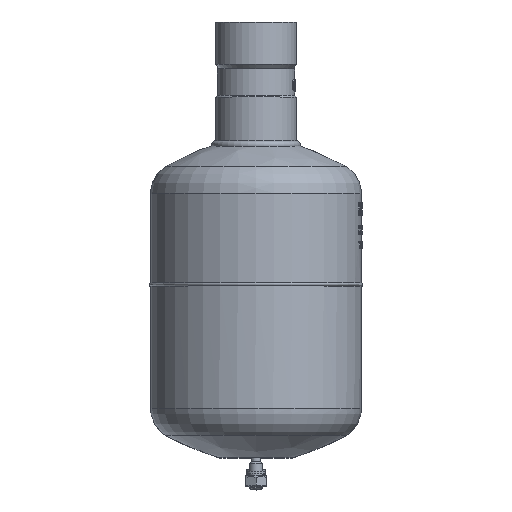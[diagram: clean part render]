
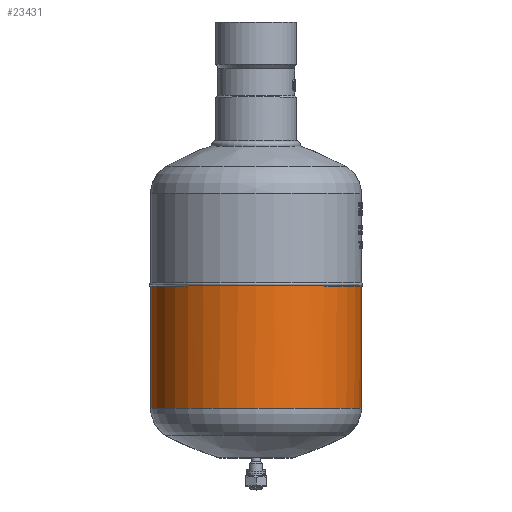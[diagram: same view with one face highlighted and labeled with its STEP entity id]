
A CAD part, top view. The second image highlights one B-rep face of the part: STEP entity #23431.
In plain terms, the highlighted cylindrical face has radius 99 mm (diameter 198 mm), a full revolution.
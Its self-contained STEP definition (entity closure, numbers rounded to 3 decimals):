
#660=FACE_BOUND('',#4953,.T.);
#1578=B_SPLINE_CURVE_WITH_KNOTS('',3,(#50453,#50454,#50455,#50456,#50457,
#50458,#50459,#50460,#50461,#50462,#50463,#50464,#50465,#50466,#50467,#50468,
#50469,#50470),.UNSPECIFIED.,.F.,.F.,(4,2,2,2,2,2,2,2,4),(6.898,
7.242,7.587,7.932,8.277,8.622,
8.967,9.312,9.371),.UNSPECIFIED.);
#1579=B_SPLINE_CURVE_WITH_KNOTS('',3,(#50472,#50473,#50474,#50475,#50476,
#50477,#50478,#50479,#50480,#50481,#50482,#50483,#50484,#50485,#50486,#50487,
#50488,#50489,#50490),.UNSPECIFIED.,.F.,.F.,(4,2,2,2,3,2,2,2,4),(4.424,
4.483,4.828,5.173,5.518,5.863,
6.208,6.553,6.898),.UNSPECIFIED.);
#1715=CYLINDRICAL_SURFACE('',#25199,99.);
#2159=CIRCLE('',#25122,99.);
#2190=CIRCLE('',#25197,99.);
#3490=FACE_OUTER_BOUND('',#4952,.T.);
#4952=EDGE_LOOP('',(#21363,#21364,#21365));
#4953=EDGE_LOOP('',(#21366));
#10949=VERTEX_POINT('',#50088);
#10997=VERTEX_POINT('',#50451);
#10998=VERTEX_POINT('',#50452);
#10999=VERTEX_POINT('',#50471);
#14405=EDGE_CURVE('',#10949,#10949,#2159,.T.);
#14461=EDGE_CURVE('',#10997,#10998,#1578,.T.);
#14462=EDGE_CURVE('',#10999,#10997,#1579,.T.);
#14465=EDGE_CURVE('',#10999,#10998,#2190,.T.);
#21363=ORIENTED_EDGE('',*,*,#14461,.T.);
#21364=ORIENTED_EDGE('',*,*,#14465,.F.);
#21365=ORIENTED_EDGE('',*,*,#14462,.T.);
#21366=ORIENTED_EDGE('',*,*,#14405,.T.);
#23431=ADVANCED_FACE('',(#3490,#660),#1715,.T.);
#25122=AXIS2_PLACEMENT_3D('',#50089,#30184,#30185);
#25197=AXIS2_PLACEMENT_3D('',#50520,#30340,#30341);
#25199=AXIS2_PLACEMENT_3D('',#50523,#30344,#30345);
#30184=DIRECTION('center_axis',(0.,-1.,0.));
#30185=DIRECTION('ref_axis',(-1.,0.,0.));
#30340=DIRECTION('center_axis',(0.,-1.,0.));
#30341=DIRECTION('ref_axis',(-1.,0.,0.));
#30344=DIRECTION('center_axis',(0.,-1.,0.));
#30345=DIRECTION('ref_axis',(-1.,0.,0.));
#50088=CARTESIAN_POINT('',(-99.,-100.575,256.456));
#50089=CARTESIAN_POINT('Origin',(0.,-100.575,
256.456));
#50451=CARTESIAN_POINT('',(0.,-197.425,157.456));
#50452=CARTESIAN_POINT('',(-2.915,-215.249,157.499));
#50453=CARTESIAN_POINT('Ctrl Pts',(0.,-197.425,
157.456));
#50454=CARTESIAN_POINT('Ctrl Pts',(-1.15,-197.425,
157.456));
#50455=CARTESIAN_POINT('Ctrl Pts',(-2.375,-197.655,
157.479));
#50456=CARTESIAN_POINT('Ctrl Pts',(-4.63,-198.589,
157.558));
#50457=CARTESIAN_POINT('Ctrl Pts',(-5.658,-199.293,
157.615));
#50458=CARTESIAN_POINT('Ctrl Pts',(-7.282,-200.917,
157.721));
#50459=CARTESIAN_POINT('Ctrl Pts',(-7.986,-201.946,
157.778));
#50460=CARTESIAN_POINT('Ctrl Pts',(-8.92,-204.2,
157.858));
#50461=CARTESIAN_POINT('Ctrl Pts',(-9.15,-205.426,
157.88));
#50462=CARTESIAN_POINT('Ctrl Pts',(-9.15,-207.725,
157.88));
#50463=CARTESIAN_POINT('Ctrl Pts',(-8.92,-208.951,
157.858));
#50464=CARTESIAN_POINT('Ctrl Pts',(-7.986,-211.205,
157.778));
#50465=CARTESIAN_POINT('Ctrl Pts',(-7.282,-212.233,
157.721));
#50466=CARTESIAN_POINT('Ctrl Pts',(-5.658,-213.857,
157.615));
#50467=CARTESIAN_POINT('Ctrl Pts',(-4.63,-214.561,
157.558));
#50468=CARTESIAN_POINT('Ctrl Pts',(-3.309,-215.109,
157.512));
#50469=CARTESIAN_POINT('Ctrl Pts',(-3.113,-215.182,
157.505));
#50470=CARTESIAN_POINT('Ctrl Pts',(-2.915,-215.249,
157.499));
#50471=CARTESIAN_POINT('',(2.915,-215.249,157.499));
#50472=CARTESIAN_POINT('Ctrl Pts',(2.915,-215.249,157.499));
#50473=CARTESIAN_POINT('Ctrl Pts',(3.113,-215.182,157.505));
#50474=CARTESIAN_POINT('Ctrl Pts',(3.309,-215.109,157.512));
#50475=CARTESIAN_POINT('Ctrl Pts',(4.63,-214.561,157.558));
#50476=CARTESIAN_POINT('Ctrl Pts',(5.658,-213.857,157.615));
#50477=CARTESIAN_POINT('Ctrl Pts',(7.282,-212.233,157.721));
#50478=CARTESIAN_POINT('Ctrl Pts',(7.986,-211.205,157.778));
#50479=CARTESIAN_POINT('Ctrl Pts',(8.92,-208.951,157.858));
#50480=CARTESIAN_POINT('Ctrl Pts',(9.15,-207.725,157.88));
#50481=CARTESIAN_POINT('Ctrl Pts',(9.15,-206.575,157.88));
#50482=CARTESIAN_POINT('Ctrl Pts',(9.15,-205.426,157.88));
#50483=CARTESIAN_POINT('Ctrl Pts',(8.92,-204.2,157.858));
#50484=CARTESIAN_POINT('Ctrl Pts',(7.986,-201.946,157.778));
#50485=CARTESIAN_POINT('Ctrl Pts',(7.282,-200.917,157.721));
#50486=CARTESIAN_POINT('Ctrl Pts',(5.658,-199.293,157.615));
#50487=CARTESIAN_POINT('Ctrl Pts',(4.63,-198.589,157.558));
#50488=CARTESIAN_POINT('Ctrl Pts',(2.375,-197.655,157.479));
#50489=CARTESIAN_POINT('Ctrl Pts',(1.15,-197.425,157.456));
#50490=CARTESIAN_POINT('Ctrl Pts',(0.,-197.425,
157.456));
#50520=CARTESIAN_POINT('Origin',(0.,-215.249,
256.456));
#50523=CARTESIAN_POINT('Origin',(0.,-157.912,
256.456));
